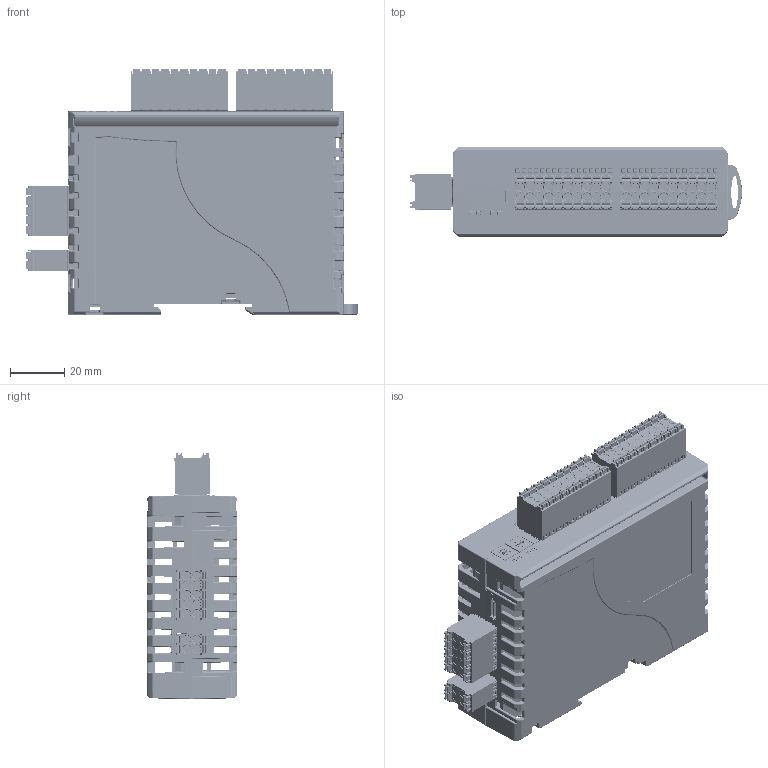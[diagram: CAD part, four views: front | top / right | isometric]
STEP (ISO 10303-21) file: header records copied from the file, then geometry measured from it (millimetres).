
FILE_DESCRIPTION((''),'2;1');
FILE_NAME('SHELL-ALL_ASM_1_ASM_1_ASM_2_ASM_ASM','2024-08-19T18:58:12',('Administrator'),('yulong DESIGN'),'CREO PARAMETRIC BY PTC INC, 2021023','CREO PARAMETRIC BY PTC INC, 2021023','');
FILE_SCHEMA(('AUTOMOTIVE_DESIGN { 1 0 10303 214 1 1 1 1 }'));
Products named in the file (26): SHELL-1_1_1_2_3; PCB_1_1_2_3; MC-DPT3_5H04-BK-2000_2_3; MC-DPT3_5H10-BK-2000_2_3; _X2_C194B9ACB4DC_X0_1-437_2_3; _X2_C194B9ACB4DC_X0_1-438_2_3; SKAR-10H1_1_ASM_2_ASM_3_ASM; X-PCB_1_2_3; MC-DPT3_5H20-BK-2000_2_3; X-PCB-ALL_ASM_1_ASM_2_ASM_3_ASM; PCB-ALL_ASM_1_ASM_1_ASM_2_ASM_3_ASM; SHELL-2_1_1_2_3; DIN_LATCH_20200719_1_1_2_3; _4000_2_3; _8000_2_4; PRT0001_2_4; PRT0002_2_5; PRT0001_1; MC-DRT3_5H04P-A-0001_ASM; PRT0001_1_1; MC-DRT3_5H10P-A-0001_ASM; PRT0001_1_1_2; MC-DRT3_5H20P-A-0001_ASM; PRT0001_1_1_2_3; ASM0001_ASM; SHELL-ALL_ASM_1_ASM_1_ASM_2_ASM_ASM
Assembly tree (28 placements, depth 4):
  SHELL-ALL_ASM_1_ASM_1_ASM_2_ASM_ASM
    SHELL-1_1_1_2_3
    PCB-ALL_ASM_1_ASM_1_ASM_2_ASM_3_ASM
      PCB_1_1_2_3
      MC-DPT3_5H04-BK-2000_2_3
      MC-DPT3_5H10-BK-2000_2_3
      SKAR-10H1_1_ASM_2_ASM_3_ASM  x2
        _X2_C194B9ACB4DC_X0_1-437_2_3
        _X2_C194B9ACB4DC_X0_1-438_2_3
      X-PCB-ALL_ASM_1_ASM_2_ASM_3_ASM  x2
        X-PCB_1_2_3
        MC-DPT3_5H20-BK-2000_2_3
    SHELL-2_1_1_2_3
    DIN_LATCH_20200719_1_1_2_3
    _4000_2_3
    _8000_2_4  x2
    PRT0001_2_4
    PRT0002_2_5
    MC-DRT3_5H04P-A-0001_ASM
      PRT0001_1
    MC-DRT3_5H10P-A-0001_ASM
      PRT0001_1_1
    MC-DRT3_5H20P-A-0001_ASM
      PRT0001_1_1_2
    ASM0001_ASM
      PRT0001_1_1_2_3
Bounding box: 122.12 x 33 x 90.55 mm (x, y, z)
Volume: 88650.4 mm3; surface area: 113634.8 mm2
Topology: 23 solids, 39 shells, 12505 faces, 35574 edges, 23113 vertices
Faces by surface type: plane 8341, cylinder 3071, torus 432, bspline 273, cone 231, sphere 85, extrusion 72
Entity records: 425240 total; most frequent: CARTESIAN_POINT 90137, ORIENTED_EDGE 62710, DIRECTION 55615, EDGE_CURVE 31355, VECTOR 23475, LINE 23403, VERTEX_POINT 20315, AXIS2_PLACEMENT_3D 16070
